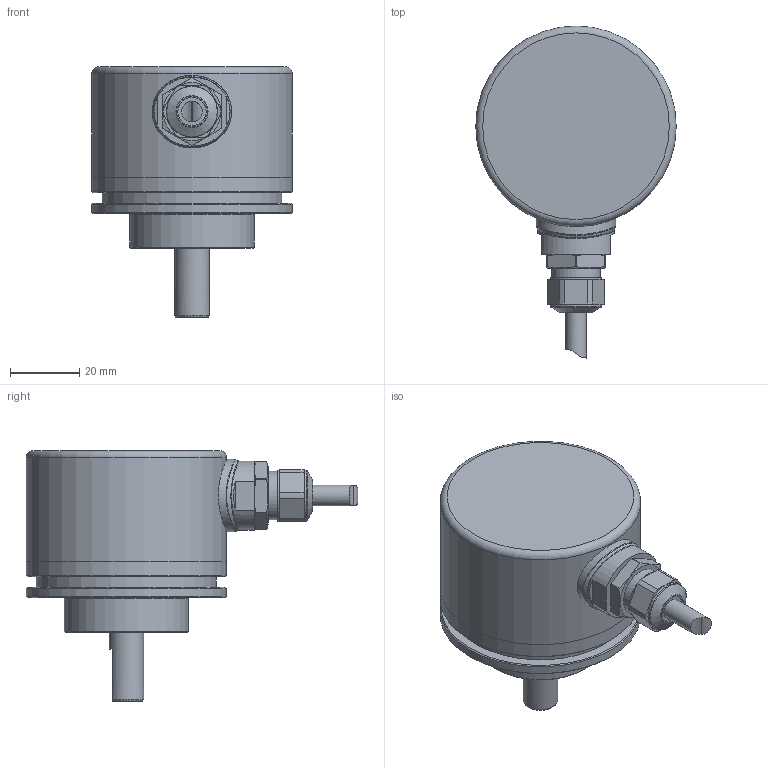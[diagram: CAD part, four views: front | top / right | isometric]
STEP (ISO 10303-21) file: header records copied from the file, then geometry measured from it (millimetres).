
FILE_DESCRIPTION( ( 'Unknown' ), '1' );
FILE_NAME( '//baumernet.org/ch01d/PJ-RD-MC/10601626_MAGRES_4/20__Produktmanagement/Datenblatt/Vereinfachte Modelle und DAB-Zeichnungen/Februar 2017/58/Klemmflansch/EAM580-SC0.7xC8.xxxxx.A.stp', 'Unknown', ( 'Unknown' ), ( 'Unknown' ), 'PSStep 15.0.49', 'Unknown', ' ' );
FILE_SCHEMA( ( 'AUTOMOTIVE_DESIGN { 1 0 10303 214 1 1 1 1 }' ) );
Length unit declared in the file: millimetre
Products named in the file (12): 58 K BoMo redundant vereinfacht; 11105341_vereinfacht; 11105334 vereinfacht; Kabelabgang; 11099321_vereinfacht; 11099323_vereinfacht; 11106443; Kabel; 6Kant Mutter M14; Assem1; 11161007_vereinfacht; 11090179
Assembly tree (11 placements, depth 3):
  Assem1
    11161007_vereinfacht
    11090179
    58 K BoMo redundant vereinfacht
      11105341_vereinfacht
      11105334 vereinfacht
    Kabelabgang
      11099321_vereinfacht
      11099323_vereinfacht
      11106443
      Kabel
      6Kant Mutter M14
Bounding box: 58 x 96 x 72.5 mm (x, y, z)
Volume: 127170.6 mm3; surface area: 34855 mm2
Topology: 9 solids, 9 shells, 132 faces, 262 edges, 167 vertices
Faces by surface type: plane 54, cylinder 49, cone 16, bspline 6, torus 5, extrusion 2
Full cylindrical faces by diameter (mm): 2.459 x6, 3.242 x6, 6 x1, 8.2 x1, 10 x3, 11.8 x1, 13.35 x2, 14 x2, 14.8 x2, 24 x1, 26 x2, 36 x1, 52 x1, 56 x2, 58 x3
Entity records: 8125 total; most frequent: CARTESIAN_POINT 4395, DIRECTION 554, ORIENTED_EDGE 388, AXIS2_PLACEMENT_3D 251, EDGE_LOOP 213, EDGE_CURVE 194, FACE_OUTER_BOUND 173, VERTEX_POINT 155
